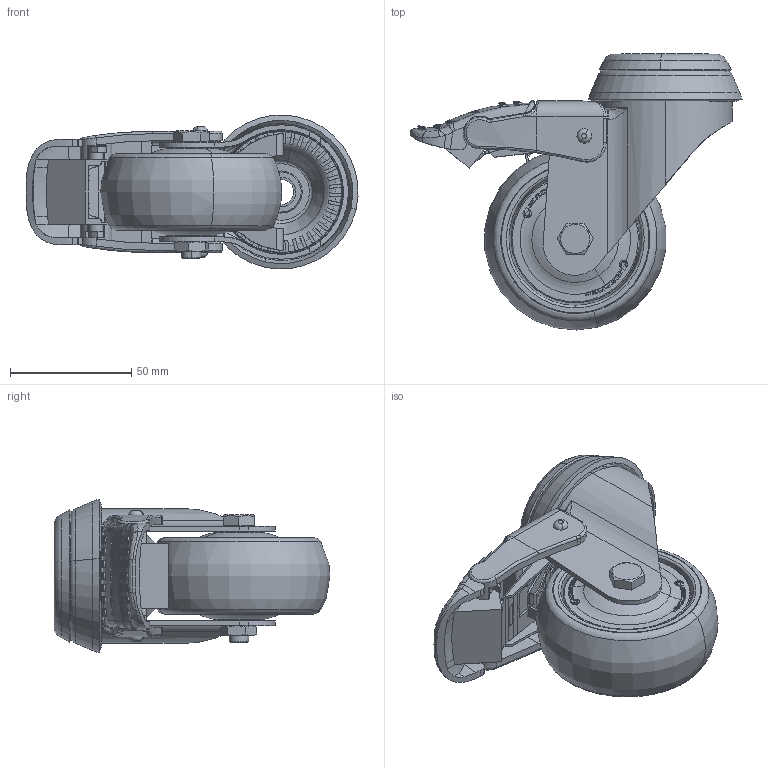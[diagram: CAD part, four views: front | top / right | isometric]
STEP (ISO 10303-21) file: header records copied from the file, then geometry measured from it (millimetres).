
FILE_DESCRIPTION (( 'STEP AP203' ), '1' );
FILE_NAME ('300834_STEP.STEP', '2013-07-29T11:00:10', ( 'admin' ), ( 'Hewlett-Packard Company' ), 'SwSTEP 2.0', 'SolidWorks 2011', '' );
FILE_SCHEMA (( 'CONFIG_CONTROL_DESIGN' ));
Length unit declared in the file: millimetre
Products named in the file (1): 300834_STEP
Bounding box: 136.72 x 113.66 x 63.32 mm (x, y, z)
Volume: 159709.7 mm3; surface area: 115304.6 mm2
Topology: 18 solids, 18 shells, 2211 faces, 6040 edges, 3919 vertices
Faces by surface type: plane 1095, cylinder 464, bspline 423, torus 142, cone 85, sphere 2
Entity records: 98484 total; most frequent: CARTESIAN_POINT 47200, ORIENTED_EDGE 12066, DIRECTION 8730, EDGE_CURVE 6033, VERTEX_POINT 3919, AXIS2_PLACEMENT_3D 3039, LINE 2652, VECTOR 2652
